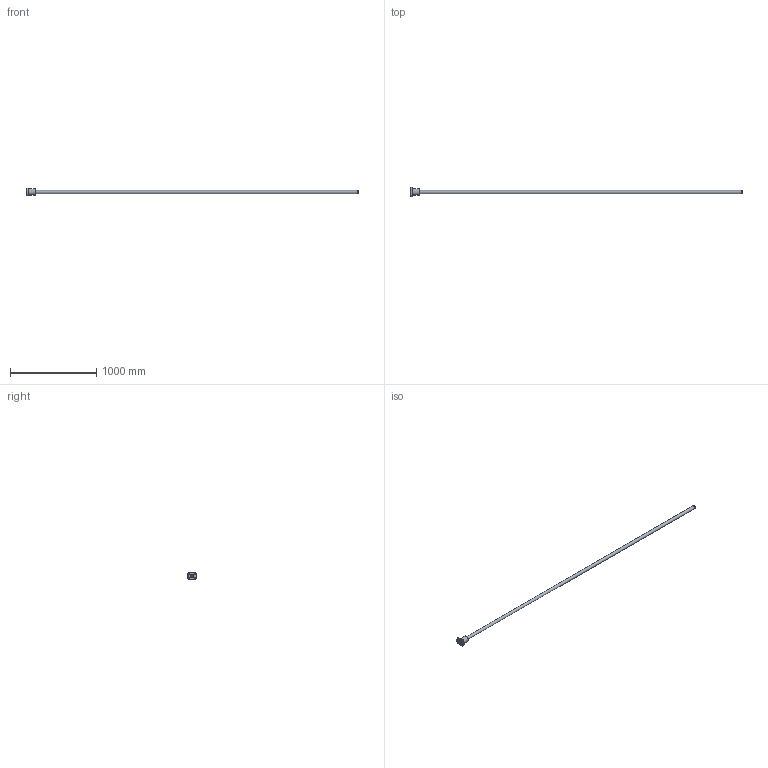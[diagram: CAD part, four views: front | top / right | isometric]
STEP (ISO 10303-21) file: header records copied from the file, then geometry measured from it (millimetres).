
FILE_DESCRIPTION( ( 'STEP AP203' ), ' ' );
FILE_NAME( 'p:/temp/worker_16/3916_4020/app_63_12018011810524740542757818fa3fd_000000_00_00_000000/format_0/BTK 3610V-5.3ZZ+3851LT_37310.stp', '2018-01-18T09:52:48', ( '' ), ( '' ), ' ', 'PARTsolutions', ' ' );
FILE_SCHEMA( ( 'CONFIG_CONTROL_DESIGN' ) );
Length unit declared in the file: millimetre
Products named in the file (3): BTK 3610V-5.3ZZ+3851LT_37310; _BTK 3610V-5.33731 Shaft; _BTK 3610V-5.3ZZ Nut
Assembly tree (2 placements, depth 2):
  BTK 3610V-5.3ZZ+3851LT_37310
    _BTK 3610V-5.33731 Shaft
    _BTK 3610V-5.3ZZ Nut
Bounding box: 3851 x 110 x 82 mm (x, y, z)
Volume: 4255749.5 mm3; surface area: 491571.3 mm2
Topology: 2 solids, 2 shells, 39 faces, 84 edges, 55 vertices
Faces by surface type: cylinder 17, plane 14, cone 8
Full cylindrical faces by diameter (mm): 4.917 x1, 11 x4, 28.8 x2, 36 x4, 43.2 x2, 63 x1, 70 x1
Entity records: 1204 total; most frequent: CARTESIAN_POINT 305, DIRECTION 174, ORIENTED_EDGE 122, AXIS2_PLACEMENT_3D 82, EDGE_LOOP 76, EDGE_CURVE 61, FACE_OUTER_BOUND 54, VERTEX_POINT 51
